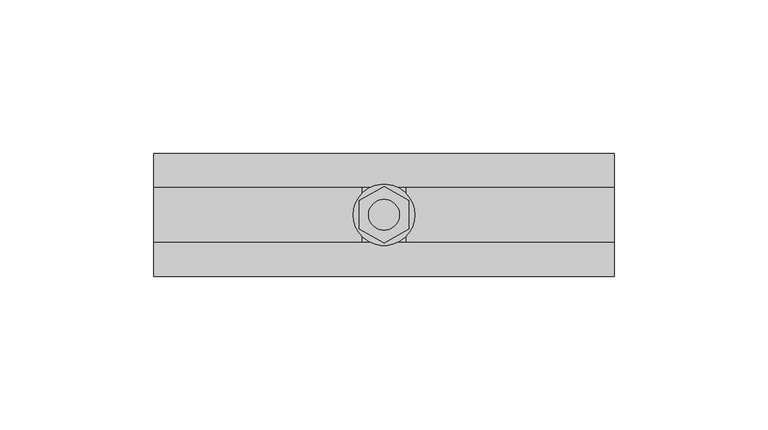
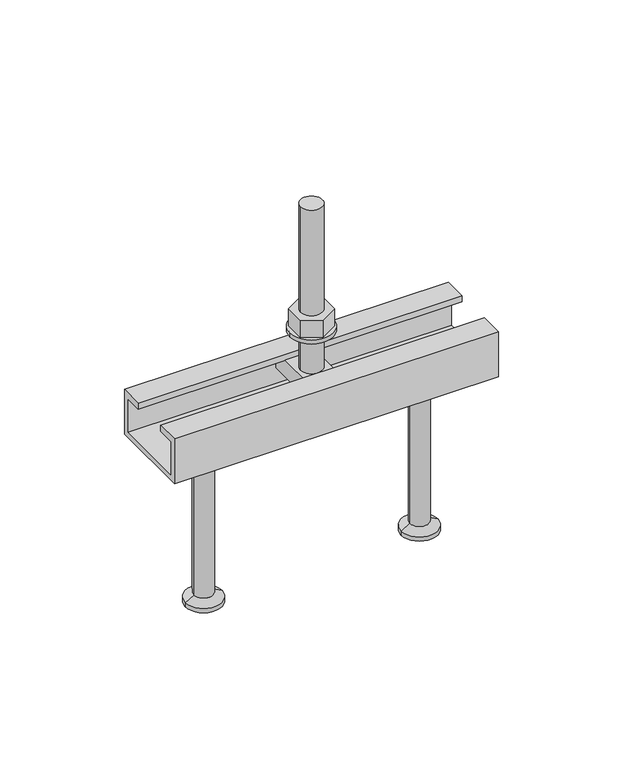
"""IFC4 building model written with IfcOpenShell, lengths in millimetres: fastener geometry, JTA-W JORDAHL® AnchorChannels : JTA-W L=150 mm."""

import ifcopenshell
import ifcopenshell.guid

model = None  # the IFC model being written
_history = None  # IfcOwnerHistory: only IFC2X3 demands one
_inside = {}  # id of a spatial element -> (the spatial element, [elements in it])
_under = {}  # id of a project, library or spatial element -> (it, [spatial elements below it])
_declared = {}  # id of a project -> (the project, [libraries it declares])
_typed = {}  # id of a type object -> (the type object, [elements of that type])
_made_of = {}  # id of a material, layer set ... -> (it, [elements and type objects made of it])


def new_model(schema):
    """Start an empty IFC model of exactly this schema.

    Asked for "IFC4X3", IfcOpenShell would pick the latest addendum, in which some entities
    have other attributes; the version numbers below select the first issue.
    IFC2X3 requires an IfcOwnerHistory on every rooted entity: one is made here for all.
    """
    global model, _history
    if schema == "IFC4X3":
        model = ifcopenshell.file(schema_version=(4, 3, 0, 0))
    else:
        model = ifcopenshell.file(schema=schema)
    _inside.clear()
    _under.clear()
    _declared.clear()
    _typed.clear()
    _made_of.clear()
    _history = None
    if model.schema == "IFC2X3":
        org = make("IfcOrganization", Name="unknown")
        user = make(
            "IfcPersonAndOrganization",
            ThePerson=make("IfcPerson", FamilyName="unknown"),
            TheOrganization=org,
        )
        app = make(
            "IfcApplication",
            ApplicationDeveloper=org,
            Version="unknown",
            ApplicationFullName="unknown",
            ApplicationIdentifier="unknown",
        )
        _history = make(
            "IfcOwnerHistory",
            OwningUser=user,
            OwningApplication=app,
            ChangeAction="ADDED",
            CreationDate=0,
        )
    return model


def make(cls, **values):
    """One entity of the class cls with the attributes given. An attribute that is None is left unset."""
    return model.create_entity(
        cls, **{name: value for name, value in values.items() if value is not None}
    )


def rooted(cls, **values):
    """An entity with a GlobalId (a new one), such as an element, a storey or a relation."""
    return make(cls, GlobalId=ifcopenshell.guid.new(), OwnerHistory=_history, **values)


def si_unit(unit_type, name, prefix=None):
    """IfcSIUnit, for example si_unit("LENGTHUNIT", "METRE", prefix="MILLI")."""
    return make("IfcSIUnit", UnitType=unit_type, Prefix=prefix, Name=name)


def assignment(units):
    """IfcUnitAssignment: the units of a project."""
    return None if units is None else make("IfcUnitAssignment", Units=units)


def point(xyz):
    """IfcCartesianPoint."""
    return None if xyz is None else make("IfcCartesianPoint", Coordinates=xyz)


def direction(xyz):
    """IfcDirection."""
    return None if xyz is None else make("IfcDirection", DirectionRatios=xyz)


def frame(location, z_axis=None, x_axis=None):
    """IfcAxis2Placement3D, a coordinate frame: its origin and axes. An axis left out is left unset."""
    return make(
        "IfcAxis2Placement3D",
        Location=point(location),
        Axis=direction(z_axis),
        RefDirection=direction(x_axis),
    )


def frame_2d(location, x_axis=None):
    """IfcAxis2Placement2D, a coordinate frame in the plane: its origin and x axis."""
    return make(
        "IfcAxis2Placement2D", Location=point(location), RefDirection=direction(x_axis)
    )


def origin():
    """The frame at (0, 0, 0) with its axes left unset."""
    return frame((0.0, 0.0, 0.0))


def place(relative_to, where):
    """IfcLocalPlacement: puts the frame where relative to a parent placement (None: the world)."""
    return make(
        "IfcLocalPlacement", PlacementRelTo=relative_to, RelativePlacement=where
    )


def context(
    kind, dimensions, precision=None, world=None, true_north=None, identifier=None
):
    """IfcGeometricRepresentationContext, for example the 3D "Model" context."""
    return make(
        "IfcGeometricRepresentationContext",
        ContextIdentifier=identifier,
        ContextType=kind,
        CoordinateSpaceDimension=dimensions,
        Precision=precision,
        WorldCoordinateSystem=world,
        TrueNorth=true_north,
    )


def project(units=None, contexts=None):
    """IfcProject with its units and contexts."""
    return rooted(
        "IfcProject",
        Name="project",
        RepresentationContexts=contexts,
        UnitsInContext=assignment(units),
    )


def spatial(cls, under=None, at=None, **own):
    """A site, building, storey or space (cls), placed at a placement, below another one or the project."""
    s = rooted(cls, ObjectPlacement=at, **own)
    if under is not None:
        _under.setdefault(under.id(), (under, []))[1].append(s)
    return s


def polyline(points):
    """IfcPolyline through the points."""
    return make("IfcPolyline", Points=[point(p) for p in points])


def circle_curve(where, radius):
    """IfcCircle in the frame where."""
    return make("IfcCircle", Position=where, Radius=radius)


def trimmed(basis, trim1, trim2, sense, master):
    """IfcTrimmedCurve: the piece of a basis curve between two trims."""
    return make(
        "IfcTrimmedCurve",
        BasisCurve=basis,
        Trim1=trim1,
        Trim2=trim2,
        SenseAgreement=sense,
        MasterRepresentation=master,
    )


def segment(curve, same_sense, transition):
    """IfcCompositeCurveSegment."""
    return make(
        "IfcCompositeCurveSegment",
        Transition=transition,
        SameSense=same_sense,
        ParentCurve=curve,
    )


def composite_curve(segments, self_intersect=None):
    """IfcCompositeCurve: segments joined end to end."""
    return make("IfcCompositeCurve", Segments=segments, SelfIntersect=self_intersect)


def outline(outer, holes=None, kind="AREA"):
    """IfcArbitraryClosedProfileDef: a profile drawn as a closed curve; with holes, ...WithVoids."""
    if holes is None:
        return make("IfcArbitraryClosedProfileDef", ProfileType=kind, OuterCurve=outer)
    return make(
        "IfcArbitraryProfileDefWithVoids",
        ProfileType=kind,
        OuterCurve=outer,
        InnerCurves=holes,
    )


def extrude(swept, where, along, depth):
    """IfcExtrudedAreaSolid: the profile swept, set in the frame where, extruded along a direction by depth."""
    return make(
        "IfcExtrudedAreaSolid",
        SweptArea=swept,
        Position=where,
        ExtrudedDirection=direction(along),
        Depth=depth,
    )


def shape(context_of_items, identifier, shape_type, items):
    """IfcShapeRepresentation: the items that make up one representation, for example the "Body"."""
    return make(
        "IfcShapeRepresentation",
        ContextOfItems=context_of_items,
        RepresentationIdentifier=identifier,
        RepresentationType=shape_type,
        Items=items,
    )


def source(mapping_origin, context_of_items, identifier, shape_type, items):
    """IfcRepresentationMap: a shape defined once, which mapped items show again and again."""
    return make(
        "IfcRepresentationMap",
        MappingOrigin=mapping_origin,
        MappedRepresentation=shape(context_of_items, identifier, shape_type, items),
    )


def transform(
    local_origin,
    x_axis=None,
    y_axis=None,
    z_axis=None,
    scale=None,
    scale2=None,
    scale3=None,
    uniform=True,
):
    """IfcCartesianTransformationOperator3D, or its non-uniform kind. x_axis, y_axis, z_axis: its Axis1, 2, 3."""
    if uniform:
        return make(
            "IfcCartesianTransformationOperator3D",
            Axis1=direction(x_axis),
            Axis2=direction(y_axis),
            LocalOrigin=point(local_origin),
            Scale=scale,
            Axis3=direction(z_axis),
        )
    return make(
        "IfcCartesianTransformationOperator3DnonUniform",
        Axis1=direction(x_axis),
        Axis2=direction(y_axis),
        LocalOrigin=point(local_origin),
        Scale=scale,
        Axis3=direction(z_axis),
        Scale2=scale2,
        Scale3=scale3,
    )


def mapped(mapping_source, mapping_target):
    """IfcMappedItem: shows the shape of a source again, moved by a transform."""
    return make(
        "IfcMappedItem", MappingSource=mapping_source, MappingTarget=mapping_target
    )


def made_of(thing, what):
    """Note that an element or type object is made of a material, layer set ...; save() writes the relation."""
    if what is not None:
        _made_of.setdefault(what.id(), (what, []))[1].append(thing)
    return thing


def element(
    cls,
    number,
    at=None,
    inside=None,
    cuts=None,
    type_object=None,
    material=None,
    context=None,
    identifier="Body",
    shape_type=None,
    held_by="IfcProductDefinitionShape",
    body=None,
    shapes=None,
    **own,
):
    """One element of the class cls, such as IfcWall. Its Tag is "e" and its number.

    at: its placement. inside: the storey or other place that contains it. cuts: it is an
    opening in that element (IfcRelVoidsElement). A single representation is given by context,
    identifier, shape_type and body (its items); several are given by shapes. held_by: the class
    of the entity that holds the representations. save() writes the other relations.
    """
    e = rooted(cls, Tag="e%d" % number, ObjectPlacement=at, **own)
    if body is not None:
        shapes = [shape(context, identifier, shape_type, body)]
    if shapes is not None:
        e.Representation = make(held_by, Representations=shapes)
    if inside is not None:
        _inside.setdefault(inside.id(), (inside, []))[1].append(e)
    if cuts is not None:
        rooted(
            "IfcRelVoidsElement", RelatingBuildingElement=cuts, RelatedOpeningElement=e
        )
    if type_object is not None:
        _typed.setdefault(type_object.id(), (type_object, []))[1].append(e)
    return made_of(e, material)


def aggregate(whole, parts):
    """IfcRelAggregates: a whole, such as a stair, and the parts it consists of."""
    return rooted("IfcRelAggregates", RelatingObject=whole, RelatedObjects=parts)


def save(model, path):
    """Write the relations noted so far, then the file.

    IfcRelAggregates (storeys below a building ...), IfcRelContainedInSpatialStructure (elements
    in a storey), IfcRelDefinesByType, IfcRelAssociatesMaterial and IfcRelDeclares: one each for
    every whole, place, type object, material and project.
    """
    for whole, parts in _under.values():
        aggregate(whole, parts)
    for where, things in _inside.values():
        rooted(
            "IfcRelContainedInSpatialStructure",
            RelatedElements=things,
            RelatingStructure=where,
        )
    for kind, things in _typed.values():
        rooted("IfcRelDefinesByType", RelatedObjects=things, RelatingType=kind)
    for what, things in _made_of.values():
        rooted("IfcRelAssociatesMaterial", RelatedObjects=things, RelatingMaterial=what)
    for by, libraries in _declared.values():
        rooted("IfcRelDeclares", RelatingContext=by, RelatedDefinitions=libraries)
    model.write(path)


def plane_surface(at):
    """IfcPlane: the flat surface through the origin of the frame at, square to its z axis."""
    return make("IfcPlane", Position=at)


def cylinder_surface(at, radius):
    """IfcCylindricalSurface: all points at the distance radius from the z axis of the frame at."""
    return make("IfcCylindricalSurface", Position=at, Radius=radius)


def revolved_surface(curve, axis_point, axis_direction):
    """IfcSurfaceOfRevolution: the curve turned about the line through axis_point along axis_direction."""
    return make(
        "IfcSurfaceOfRevolution",
        SweptCurve=make("IfcArbitraryOpenProfileDef", ProfileType="CURVE", Curve=curve),
        AxisPosition=make("IfcAxis1Placement", Location=point(axis_point), Axis=direction(axis_direction)),
    )


def advanced_brep(points, edges, surfaces, faces):
    """IfcAdvancedBrep: a solid bounded by faces that lie on surfaces and meet in shared edges.

    An edge is (start, end): straight between two places in points (the first is 0);
    or (start, end, curve); or (start, end, curve, False) where it runs against its curve.
    A face is (place in surfaces, loops), or (place, loops, False) where it looks against
    its surface's normal. A loop lists edges by number (the first is 1), with a minus sign
    where the edge is run from its end to its start. The first loop is the outer one.
    """
    corners = [point(p) for p in points]
    vertices = [make("IfcVertexPoint", VertexGeometry=c) for c in corners]
    made = []
    for start, end, *more in edges:
        made.append(
            make(
                "IfcEdgeCurve",
                EdgeStart=vertices[start],
                EdgeEnd=vertices[end],
                EdgeGeometry=more[0] if more else make("IfcPolyline", Points=[corners[start], corners[end]]),
                SameSense=more[1] if len(more) > 1 else True,
            )
        )
    hull = []
    for where, loops, *sense in faces:
        bounds = []
        for j, loop in enumerate(loops):
            ring = [make("IfcOrientedEdge", EdgeElement=made[abs(k) - 1], Orientation=k > 0) for k in loop]
            bounds.append(
                make(
                    "IfcFaceOuterBound" if j == 0 else "IfcFaceBound",
                    Bound=make("IfcEdgeLoop", EdgeList=ring),
                    Orientation=True,
                )
            )
        hull.append(make("IfcAdvancedFace", Bounds=bounds, FaceSurface=surfaces[where], SameSense=sense[0] if sense else True))
    return make("IfcAdvancedBrep", Outer=make("IfcClosedShell", CfsFaces=hull))


def fastener_6a6cae50(model_context):
    return source(origin(), model_context, "Body", "SolidModel", [
        extrude(outline(polyline([(75.0, 9.2376043), (83.0, 4.6188022), (83.0, -4.6188022), (75.0, -9.2376043), (67.0, -4.6188022), (67.0, 4.6188022), (75.0, 9.2376043)]), holes=[composite_curve([segment(trimmed(circle_curve(frame_2d((75.0, 0.0)), 5.0), [point((70.0, 0.0))], [point((80.0, 0.0))], True, "CARTESIAN"), True, "CONTINUOUS"), segment(trimmed(circle_curve(frame_2d((75.0, 0.0)), 5.0), [point((80.0, 0.0))], [point((70.0, 0.0))], True, "CARTESIAN"), True, "CONTINUOUS")], self_intersect=False)]), frame((0.0, 0.0, 17.0), z_axis=(0.0, 0.0, 1.0), x_axis=(1.0, 0.0, 0.0)), (0.0, 0.0, 1.0), 8.4),
        extrude(outline(composite_curve([segment(trimmed(circle_curve(frame_2d((75.0, 0.0)), 10.0), [point((65.0, 0.0))], [point((85.0, 0.0))], False, "CARTESIAN"), True, "CONTINUOUS"), segment(trimmed(circle_curve(frame_2d((75.0, 0.0)), 10.0), [point((85.0, 0.0))], [point((65.0, 0.0))], False, "CARTESIAN"), True, "CONTINUOUS")], self_intersect=False), holes=[composite_curve([segment(trimmed(circle_curve(frame_2d((75.0, 0.0)), 5.25), [point((69.75, 0.0))], [point((80.25, 0.0))], True, "CARTESIAN"), True, "CONTINUOUS"), segment(trimmed(circle_curve(frame_2d((75.0, 0.0)), 5.25), [point((80.25, 0.0))], [point((69.75, 0.0))], True, "CARTESIAN"), True, "CONTINUOUS")], self_intersect=False)]), frame((0.0, 0.0, 15.0), z_axis=(0.0, 0.0, 1.0), x_axis=(1.0, 0.0, 0.0)), (0.0, 0.0, 1.0), 2.0),
        advanced_brep(
        [(82.0, 16.25, -3.0), (82.0, -16.25, -3.0), (82.0, -16.25, -11.0), (82.0, 16.25, -11.0), (68.0, 16.25, -3.0), (68.0, 16.25, -11.0), (68.0, -16.25, -11.0), (68.0, -16.25, -3.0), (80.0, 0.0, -3.0), (70.0, 0.0, -3.0), (70.0, 0.0, 77.0), (80.0, 0.0, 77.0)],
        [
            (0, 1),
            (1, 2),
            (2, 3),
            (3, 0),
            (4, 5),
            (5, 6),
            (6, 7),
            (7, 4),
            (0, 4),
            (7, 1),
            (8, 9, circle_curve(frame((75.0, 0.0, -3.0), z_axis=(0.0, 0.0, -1.0), x_axis=(1.0, 0.0, 0.0)), 5.0)),
            (9, 8, circle_curve(frame((75.0, 0.0, -3.0), z_axis=(0.0, 0.0, -1.0), x_axis=(1.0, 0.0, 0.0)), 5.0)),
            (6, 2),
            (5, 3),
            (10, 11, circle_curve(frame((75.0, 0.0, 77.0), z_axis=(0.0, 0.0, 1.0), x_axis=(1.0, 0.0, 0.0)), 5.0)),
            (11, 10, circle_curve(frame((75.0, 0.0, 77.0), z_axis=(0.0, 0.0, 1.0), x_axis=(1.0, 0.0, 0.0)), 5.0)),
            (10, 9),
            (8, 11),
        ],
        [
            plane_surface(frame((82.0, -16.25, -3.0), z_axis=(1.0, 0.0, 0.0), x_axis=(0.0, -1.0, 0.0))),
            plane_surface(frame((68.0, -16.25, -3.0), z_axis=(-1.0, 0.0, 0.0), x_axis=(0.0, 1.0, 0.0))),
            plane_surface(frame((82.0, 16.25, -3.0), z_axis=(0.0, 0.0, 1.0), x_axis=(-1.0, 0.0, 0.0))),
            plane_surface(frame((82.0, -16.25, -3.0), z_axis=(0.0, -1.0, 0.0), x_axis=(-1.0, 0.0, 0.0))),
            plane_surface(frame((82.0, -16.25, -11.0), z_axis=(0.0, 0.0, -1.0), x_axis=(-1.0, 0.0, 0.0))),
            plane_surface(frame((82.0, 16.25, -11.0), z_axis=(0.0, 1.0, 0.0), x_axis=(-1.0, 0.0, 0.0))),
            plane_surface(frame((80.0, 0.0, 77.0), z_axis=(0.0, 0.0, 1.0), x_axis=(0.0, 1.0, 0.0))),
            cylinder_surface(frame((75.0, 0.0, -3.0), z_axis=(0.0, 0.0, 1.0), x_axis=(1.0, 0.0, 0.0)), 5.0),
        ],
        [
            (0, [[1, 2, 3, 4]]),
            (1, [[5, 6, 7, 8]]),
            (2, [[-1, 9, -8, 10], [11, 12]]),
            (3, [[-2, -10, -7, 13]]),
            (4, [[-3, -13, -6, 14]]),
            (5, [[-4, -14, -5, -9]]),
            (6, [[15, 16]]),
            (7, [[-15, 17, -11, 18]]),
            (7, [[-16, -18, -12, -17]]),
        ],
    ),
        advanced_brep(
        [(125.0, 0.0, -22.0), (138.5, 0.0, -22.0), (111.5, 0.0, -22.0), (116.5, 0.0, -100.0), (133.5, 0.0, -100.0), (125.0, 0.0, -100.0), (116.5, 0.0, -98.0), (133.5, 0.0, -98.0), (120.5, 0.0, -95.6905989), (129.5, 0.0, -95.6905989), (120.5, 0.0, -24.5), (129.5, 0.0, -24.5)],
        [
            (0, 1),
            (1, 2, circle_curve(frame((125.0, 0.0, -22.0), z_axis=(0.0, 0.0, 1.0), x_axis=(1.0, 0.0, 0.0)), 13.5)),
            (2, 0),
            (2, 1, circle_curve(frame((125.0, 0.0, -22.0), z_axis=(0.0, 0.0, 1.0), x_axis=(1.0, 0.0, 0.0)), 13.5)),
            (3, 4, circle_curve(frame((125.0, 0.0, -100.0), z_axis=(0.0, 0.0, -1.0), x_axis=(1.0, 0.0, 0.0)), 8.5)),
            (4, 5),
            (5, 3),
            (4, 3, circle_curve(frame((125.0, 0.0, -100.0), z_axis=(0.0, 0.0, -1.0), x_axis=(1.0, 0.0, 0.0)), 8.5)),
            (6, 7, circle_curve(frame((125.0, 0.0, -98.0), z_axis=(0.0, 0.0, -1.0), x_axis=(1.0, 0.0, 0.0)), 8.5)),
            (7, 4),
            (3, 6),
            (7, 6, circle_curve(frame((125.0, 0.0, -98.0), z_axis=(0.0, 0.0, -1.0), x_axis=(1.0, 0.0, 0.0)), 8.5)),
            (8, 9, circle_curve(frame((125.0, 0.0, -95.6905989), z_axis=(0.0, 0.0, -1.0), x_axis=(1.0, 0.0, 0.0)), 4.5)),
            (9, 7),
            (6, 8),
            (9, 8, circle_curve(frame((125.0, 0.0, -95.6905989), z_axis=(0.0, 0.0, -1.0), x_axis=(1.0, 0.0, 0.0)), 4.5)),
            (10, 11, circle_curve(frame((125.0, 0.0, -24.5), z_axis=(0.0, 0.0, -1.0), x_axis=(1.0, 0.0, 0.0)), 4.5)),
            (11, 9),
            (8, 10),
            (11, 10, circle_curve(frame((125.0, 0.0, -24.5), z_axis=(0.0, 0.0, -1.0), x_axis=(1.0, 0.0, 0.0)), 4.5)),
            (1, 11),
            (10, 2),
        ],
        [
            plane_surface(frame((125.0, 0.0, -22.0), z_axis=(0.0, 0.0, 1.0), x_axis=(1.0, 0.0, 0.0))),
            plane_surface(frame((125.0, 0.0, -100.0), z_axis=(0.0, 0.0, -1.0), x_axis=(1.0, 0.0, 0.0))),
            cylinder_surface(frame((125.0, 0.0, 2292.3150031), z_axis=(0.0, 0.0, 1.0), x_axis=(1.0, 0.0, 0.0)), 8.5),
            revolved_surface(polyline([(133.5, 0.0, -98.0), (129.5, 0.0, -95.6905989)]), (125.0, 0.0, 2292.3150031), (0.0, 0.0, 1.0)),
            cylinder_surface(frame((125.0, 0.0, 2292.3150031), z_axis=(0.0, 0.0, 1.0), x_axis=(1.0, 0.0, 0.0)), 4.5),
            revolved_surface(polyline([(129.5, 0.0, -24.5), (138.5, 0.0, -22.0)]), (125.0, 0.0, 2292.3150031), (0.0, 0.0, 1.0)),
        ],
        [
            (0, [[1, 2, 3]]),
            (0, [[-3, 4, -1]]),
            (1, [[5, 6, 7]]),
            (1, [[8, -7, -6]]),
            (2, [[9, 10, -5, 11]]),
            (2, [[12, -11, -8, -10]]),
            (3, [[13, 14, -9, 15]]),
            (3, [[16, -15, -12, -14]]),
            (4, [[17, 18, -13, 19]]),
            (4, [[20, -19, -16, -18]]),
            (5, [[-2, 21, -17, 22]]),
            (5, [[-4, -22, -20, -21]]),
        ],
    ),
        advanced_brep(
        [(25.0, 0.0, -22.0), (38.5, 0.0, -22.0), (11.5, 0.0, -22.0), (16.5, 0.0, -100.0), (33.5, 0.0, -100.0), (25.0, 0.0, -100.0), (16.5, 0.0, -98.0), (33.5, 0.0, -98.0), (20.5, 0.0, -95.6905989), (29.5, 0.0, -95.6905989), (20.5, 0.0, -24.5), (29.5, 0.0, -24.5)],
        [
            (0, 1),
            (1, 2, circle_curve(frame((25.0, 0.0, -22.0), z_axis=(0.0, 0.0, 1.0), x_axis=(1.0, 0.0, 0.0)), 13.5)),
            (2, 0),
            (2, 1, circle_curve(frame((25.0, 0.0, -22.0), z_axis=(0.0, 0.0, 1.0), x_axis=(1.0, 0.0, 0.0)), 13.5)),
            (3, 4, circle_curve(frame((25.0, 0.0, -100.0), z_axis=(0.0, 0.0, -1.0), x_axis=(1.0, 0.0, 0.0)), 8.5)),
            (4, 5),
            (5, 3),
            (4, 3, circle_curve(frame((25.0, 0.0, -100.0), z_axis=(0.0, 0.0, -1.0), x_axis=(1.0, 0.0, 0.0)), 8.5)),
            (6, 7, circle_curve(frame((25.0, 0.0, -98.0), z_axis=(0.0, 0.0, -1.0), x_axis=(1.0, 0.0, 0.0)), 8.5)),
            (7, 4),
            (3, 6),
            (7, 6, circle_curve(frame((25.0, 0.0, -98.0), z_axis=(0.0, 0.0, -1.0), x_axis=(1.0, 0.0, 0.0)), 8.5)),
            (8, 9, circle_curve(frame((25.0, 0.0, -95.6905989), z_axis=(0.0, 0.0, -1.0), x_axis=(1.0, 0.0, 0.0)), 4.5)),
            (9, 7),
            (6, 8),
            (9, 8, circle_curve(frame((25.0, 0.0, -95.6905989), z_axis=(0.0, 0.0, -1.0), x_axis=(1.0, 0.0, 0.0)), 4.5)),
            (10, 11, circle_curve(frame((25.0, 0.0, -24.5), z_axis=(0.0, 0.0, -1.0), x_axis=(1.0, 0.0, 0.0)), 4.5)),
            (11, 9),
            (8, 10),
            (11, 10, circle_curve(frame((25.0, 0.0, -24.5), z_axis=(0.0, 0.0, -1.0), x_axis=(1.0, 0.0, 0.0)), 4.5)),
            (1, 11),
            (10, 2),
        ],
        [
            plane_surface(frame((25.0, 0.0, -22.0), z_axis=(0.0, 0.0, 1.0), x_axis=(1.0, 0.0, 0.0))),
            plane_surface(frame((25.0, 0.0, -100.0), z_axis=(0.0, 0.0, -1.0), x_axis=(1.0, 0.0, 0.0))),
            cylinder_surface(frame((25.0, 0.0, 2292.3150031), z_axis=(0.0, 0.0, 1.0), x_axis=(1.0, 0.0, 0.0)), 8.5),
            revolved_surface(polyline([(33.5, 0.0, -98.0), (29.5, 0.0, -95.6905989)]), (25.0, 0.0, 2292.3150031), (0.0, 0.0, 1.0)),
            cylinder_surface(frame((25.0, 0.0, 2292.3150031), z_axis=(0.0, 0.0, 1.0), x_axis=(1.0, 0.0, 0.0)), 4.5),
            revolved_surface(polyline([(29.5, 0.0, -24.5), (38.5, 0.0, -22.0)]), (25.0, 0.0, 2292.3150031), (0.0, 0.0, 1.0)),
        ],
        [
            (0, [[1, 2, 3]]),
            (0, [[-3, 4, -1]]),
            (1, [[5, 6, 7]]),
            (1, [[8, -7, -6]]),
            (2, [[9, 10, -5, 11]]),
            (2, [[12, -11, -8, -10]]),
            (3, [[13, 14, -9, 15]]),
            (3, [[16, -15, -12, -14]]),
            (4, [[17, 18, -13, 19]]),
            (4, [[20, -19, -16, -18]]),
            (5, [[-2, 21, -17, 22]]),
            (5, [[-4, -22, -20, -21]]),
        ],
    ),
        extrude(outline(polyline([(20.0, 0.0), (20.0, -22.0), (-20.0, -22.0), (-20.0, 0.0), (-9.0, 0.0), (-9.0, -3.0), (-17.5, -3.0), (-17.5, -19.5), (17.5, -19.5), (17.5, -3.0), (9.0, -3.0), (9.0, 0.0), (20.0, 0.0)])), frame((0.0, 0.0, 0.0), z_axis=(1.0, 0.0, 0.0), x_axis=(0.0, 1.0, 0.0)), (0.0, 0.0, 1.0), 150.0),
    ])


if __name__ == "__main__":
    model = new_model("IFC4")
    model_context = context("Model", 3, world=origin())
    ifc_project = project(units=[si_unit("LENGTHUNIT", "METRE", prefix="MILLI")], contexts=[model_context])
    site = spatial("IfcSite", under=ifc_project)
    building = spatial("IfcBuilding", under=site)
    placement = place(None, origin())
    fastener_shape = fastener_6a6cae50(model_context)
    element("IfcFastener", 1, ObjectType="JTA-W JORDAHL® AnchorChannels : JTA-W L=150 mm", at=placement, inside=building, context=model_context, shape_type="MappedRepresentation", body=[
        mapped(fastener_shape, transform((0.0, 0.0, 0.0), x_axis=(1.0, 0.0, 0.0), y_axis=(0.0, 1.0, 0.0), z_axis=(0.0, 0.0, 1.0))),
    ])
    save(model, "model.ifc")
